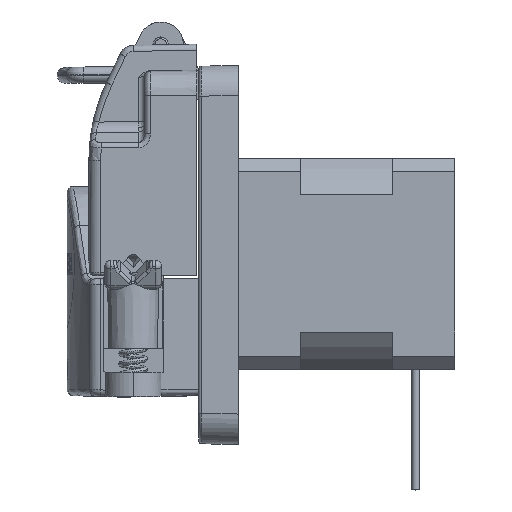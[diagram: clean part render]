
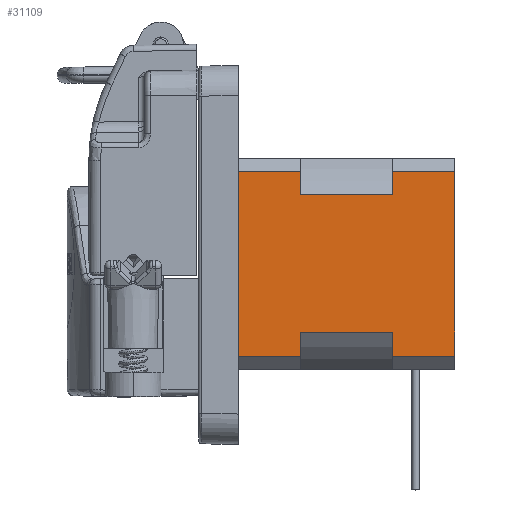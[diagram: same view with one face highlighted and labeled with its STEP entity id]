
A CAD part, top view. The second image highlights one B-rep face of the part: STEP entity #31109.
In plain terms, the highlighted planar face has unit normal (0, 0, 1).
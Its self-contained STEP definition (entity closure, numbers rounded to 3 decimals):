
#32 = DIRECTION ( 'NONE',  ( 0., -1., 0. ) ) ;
#449 = DIRECTION ( 'NONE',  ( 0., 0., 1. ) ) ;
#599 = VERTEX_POINT ( 'NONE', #33853 ) ;
#913 = VERTEX_POINT ( 'NONE', #2276 ) ;
#1054 = VECTOR ( 'NONE', #22341, 1000. ) ;
#2276 = CARTESIAN_POINT ( 'NONE',  ( 29.465, -15.35, 17.6 ) ) ;
#2738 = LINE ( 'NONE', #5895, #1054 ) ;
#3163 = EDGE_CURVE ( 'NONE', #28477, #31744, #14402, .T. ) ;
#3239 = DIRECTION ( 'NONE',  ( -1., 0., 0. ) ) ;
#3272 = LINE ( 'NONE', #14777, #32228 ) ;
#3273 = EDGE_LOOP ( 'NONE', ( #15104, #26229, #9397, #10056, #21253, #25258, #11668, #34785, #17507, #13437, #20870, #32472 ) ) ;
#5100 = CARTESIAN_POINT ( 'NONE',  ( 29.465, -11.456, 17.6 ) ) ;
#5143 = CARTESIAN_POINT ( 'NONE',  ( 29.465, 11.456, 17.6 ) ) ;
#5617 = CARTESIAN_POINT ( 'NONE',  ( 39.8, -15.35, 17.6 ) ) ;
#5895 = CARTESIAN_POINT ( 'NONE',  ( 29.465, -11.456, 17.6 ) ) ;
#6320 = CARTESIAN_POINT ( 'NONE',  ( 14.135, -11.456, 17.6 ) ) ;
#6451 = EDGE_CURVE ( 'NONE', #31744, #9943, #26901, .T. ) ;
#7119 = VECTOR ( 'NONE', #9821, 1000. ) ;
#7546 = FACE_OUTER_BOUND ( 'NONE', #3273, .T. ) ;
#7547 = EDGE_CURVE ( 'NONE', #9943, #599, #27285, .T. ) ;
#8431 = EDGE_CURVE ( 'NONE', #25414, #913, #29353, .T. ) ;
#8463 = VECTOR ( 'NONE', #12475, 1000. ) ;
#8609 = VECTOR ( 'NONE', #15877, 1000. ) ;
#8958 = DIRECTION ( 'NONE',  ( 0., -1., 0. ) ) ;
#9059 = VECTOR ( 'NONE', #11349, 1000. ) ;
#9263 = VECTOR ( 'NONE', #8958, 1000. ) ;
#9397 = ORIENTED_EDGE ( 'NONE', *, *, #7547, .T. ) ;
#9821 = DIRECTION ( 'NONE',  ( -1., 0., 0. ) ) ;
#9943 = VERTEX_POINT ( 'NONE', #5143 ) ;
#10041 = EDGE_CURVE ( 'NONE', #33789, #913, #16542, .T. ) ;
#10056 = ORIENTED_EDGE ( 'NONE', *, *, #34897, .F. ) ;
#11349 = DIRECTION ( 'NONE',  ( 0., 1., 0. ) ) ;
#11668 = ORIENTED_EDGE ( 'NONE', *, *, #25906, .F. ) ;
#11751 = CARTESIAN_POINT ( 'NONE',  ( 29.465, -15.35, 17.6 ) ) ;
#12068 = VERTEX_POINT ( 'NONE', #6320 ) ;
#12475 = DIRECTION ( 'NONE',  ( -1., 0., 0. ) ) ;
#13026 = VERTEX_POINT ( 'NONE', #19492 ) ;
#13063 = EDGE_CURVE ( 'NONE', #12068, #33789, #2738, .T. ) ;
#13437 = ORIENTED_EDGE ( 'NONE', *, *, #10041, .T. ) ;
#14385 = EDGE_CURVE ( 'NONE', #17010, #21672, #30794, .T. ) ;
#14402 = LINE ( 'NONE', #26125, #7119 ) ;
#14777 = CARTESIAN_POINT ( 'NONE',  ( 14.135, -15.35, 17.6 ) ) ;
#15032 = CARTESIAN_POINT ( 'NONE',  ( 3.8, 15.35, 17.6 ) ) ;
#15104 = ORIENTED_EDGE ( 'NONE', *, *, #3163, .T. ) ;
#15293 = AXIS2_PLACEMENT_3D ( 'NONE', #16793, #449, #19517 ) ;
#15758 = CARTESIAN_POINT ( 'NONE',  ( 39.8, -15.35, 17.6 ) ) ;
#15877 = DIRECTION ( 'NONE',  ( 0., 1., 0. ) ) ;
#16041 = CARTESIAN_POINT ( 'NONE',  ( 39.8, 15.35, 17.6 ) ) ;
#16542 = LINE ( 'NONE', #11751, #9263 ) ;
#16793 = CARTESIAN_POINT ( 'NONE',  ( 39.8, -15.35, 17.6 ) ) ;
#17010 = VERTEX_POINT ( 'NONE', #31275 ) ;
#17494 = DIRECTION ( 'NONE',  ( 0., -1., 0. ) ) ;
#17507 = ORIENTED_EDGE ( 'NONE', *, *, #13063, .T. ) ;
#17763 = VECTOR ( 'NONE', #3239, 1000. ) ;
#18020 = CARTESIAN_POINT ( 'NONE',  ( 29.465, -15.35, 17.6 ) ) ;
#18479 = DIRECTION ( 'NONE',  ( -1., 0., 0. ) ) ;
#19104 = CARTESIAN_POINT ( 'NONE',  ( 14.135, -15.35, 17.6 ) ) ;
#19492 = CARTESIAN_POINT ( 'NONE',  ( 14.135, -15.35, 17.6 ) ) ;
#19517 = DIRECTION ( 'NONE',  ( 1., 0., 0. ) ) ;
#19577 = CARTESIAN_POINT ( 'NONE',  ( 39.8, 15.35, 17.6 ) ) ;
#20165 = VERTEX_POINT ( 'NONE', #28194 ) ;
#20749 = DIRECTION ( 'NONE',  ( 0., -1., 0. ) ) ;
#20870 = ORIENTED_EDGE ( 'NONE', *, *, #8431, .F. ) ;
#21092 = VECTOR ( 'NONE', #32, 1000. ) ;
#21253 = ORIENTED_EDGE ( 'NONE', *, *, #33345, .T. ) ;
#21672 = VERTEX_POINT ( 'NONE', #15032 ) ;
#22275 = LINE ( 'NONE', #29414, #8609 ) ;
#22341 = DIRECTION ( 'NONE',  ( 1., 0., 0. ) ) ;
#24164 = CARTESIAN_POINT ( 'NONE',  ( 29.465, 11.456, 17.6 ) ) ;
#25258 = ORIENTED_EDGE ( 'NONE', *, *, #14385, .F. ) ;
#25414 = VERTEX_POINT ( 'NONE', #5617 ) ;
#25639 = CARTESIAN_POINT ( 'NONE',  ( 29.465, 15.35, 17.6 ) ) ;
#25906 = EDGE_CURVE ( 'NONE', #13026, #17010, #30348, .T. ) ;
#25952 = EDGE_CURVE ( 'NONE', #25414, #28477, #22275, .T. ) ;
#26125 = CARTESIAN_POINT ( 'NONE',  ( 39.8, 15.35, 17.6 ) ) ;
#26229 = ORIENTED_EDGE ( 'NONE', *, *, #6451, .T. ) ;
#26901 = LINE ( 'NONE', #18020, #33276 ) ;
#27285 = LINE ( 'NONE', #24164, #34513 ) ;
#27753 = CARTESIAN_POINT ( 'NONE',  ( 3.8, -15.35, 17.6 ) ) ;
#28194 = CARTESIAN_POINT ( 'NONE',  ( 14.135, 15.35, 17.6 ) ) ;
#28477 = VERTEX_POINT ( 'NONE', #16041 ) ;
#28745 = CARTESIAN_POINT ( 'NONE',  ( 39.8, -15.35, 17.6 ) ) ;
#29353 = LINE ( 'NONE', #28745, #8463 ) ;
#29414 = CARTESIAN_POINT ( 'NONE',  ( 39.8, -15.35, 17.6 ) ) ;
#29504 = VECTOR ( 'NONE', #18479, 1000. ) ;
#30323 = PLANE ( 'NONE',  #15293 ) ;
#30348 = LINE ( 'NONE', #15758, #29504 ) ;
#30794 = LINE ( 'NONE', #27753, #9059 ) ;
#31109 = ADVANCED_FACE ( 'NONE', ( #7546 ), #30323, .T. ) ;
#31275 = CARTESIAN_POINT ( 'NONE',  ( 3.8, -15.35, 17.6 ) ) ;
#31744 = VERTEX_POINT ( 'NONE', #25639 ) ;
#32199 = LINE ( 'NONE', #19577, #17763 ) ;
#32228 = VECTOR ( 'NONE', #17494, 1000. ) ;
#32472 = ORIENTED_EDGE ( 'NONE', *, *, #25952, .T. ) ;
#32580 = EDGE_CURVE ( 'NONE', #12068, #13026, #3272, .T. ) ;
#33276 = VECTOR ( 'NONE', #20749, 1000. ) ;
#33345 = EDGE_CURVE ( 'NONE', #20165, #21672, #32199, .T. ) ;
#33789 = VERTEX_POINT ( 'NONE', #5100 ) ;
#33853 = CARTESIAN_POINT ( 'NONE',  ( 14.135, 11.456, 17.6 ) ) ;
#34513 = VECTOR ( 'NONE', #35094, 1000. ) ;
#34709 = LINE ( 'NONE', #19104, #21092 ) ;
#34785 = ORIENTED_EDGE ( 'NONE', *, *, #32580, .F. ) ;
#34897 = EDGE_CURVE ( 'NONE', #20165, #599, #34709, .T. ) ;
#35094 = DIRECTION ( 'NONE',  ( -1., 0., 0. ) ) ;
